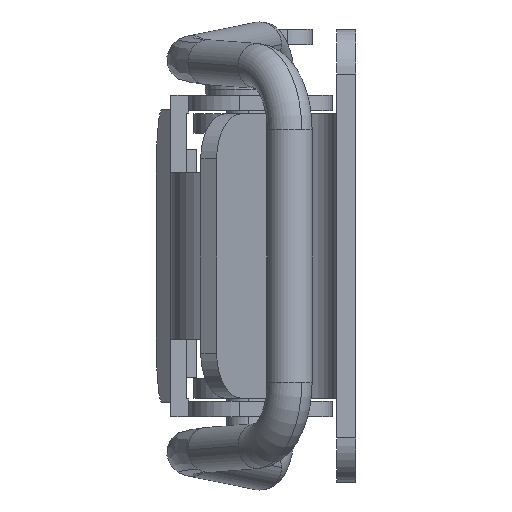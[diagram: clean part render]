
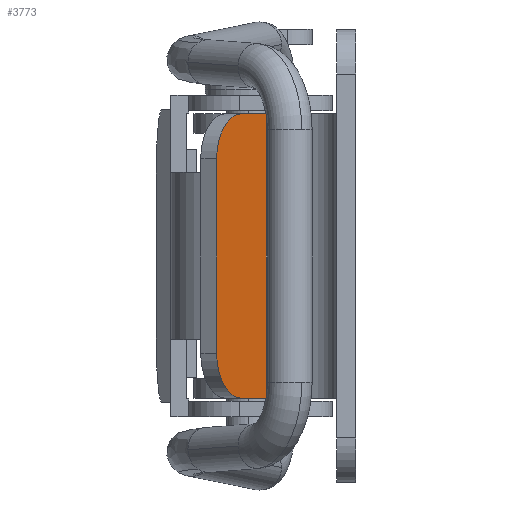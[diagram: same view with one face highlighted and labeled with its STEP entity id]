
A CAD part, left-side view. The second image highlights one B-rep face of the part: STEP entity #3773.
In plain terms, the highlighted planar face has unit normal (-0.56, -0.828, 0).
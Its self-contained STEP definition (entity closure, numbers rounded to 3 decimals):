
#38 = VECTOR ( 'NONE', #1495, 1000. ) ;
#315 = DIRECTION ( 'NONE',  ( -0.828, 0.561, 0. ) ) ;
#413 = EDGE_CURVE ( 'NONE', #5441, #3978, #5530, .T. ) ;
#435 = VERTEX_POINT ( 'NONE', #4852 ) ;
#483 = ORIENTED_EDGE ( 'NONE', *, *, #5491, .T. ) ;
#546 = CARTESIAN_POINT ( 'NONE',  ( -32.559, 28.061, 73.366 ) ) ;
#608 = DIRECTION ( 'NONE',  ( -0.561, -0.828, 0. ) ) ;
#728 = PLANE ( 'NONE',  #5871 ) ;
#749 = DIRECTION ( 'NONE',  ( 0.828, -0.561, 0. ) ) ;
#802 = DIRECTION ( 'NONE',  ( 0.828, -0.561, 0. ) ) ;
#925 = CARTESIAN_POINT ( 'NONE',  ( -15.036, 16.2, 66.766 ) ) ;
#926 = CARTESIAN_POINT ( 'NONE',  ( -26.837, 24.188, 73.366 ) ) ;
#1169 = VERTEX_POINT ( 'NONE', #5928 ) ;
#1360 = VERTEX_POINT ( 'NONE', #5374 ) ;
#1370 = VECTOR ( 'NONE', #6626, 1000. ) ;
#1386 = LINE ( 'NONE', #926, #38 ) ;
#1495 = DIRECTION ( 'NONE',  ( 0., 0., -1. ) ) ;
#1762 = DIRECTION ( 'NONE',  ( 0., 0., -1. ) ) ;
#1984 = ORIENTED_EDGE ( 'NONE', *, *, #413, .F. ) ;
#2117 = CIRCLE ( 'NONE', #2835, 3.5 ) ;
#2617 = CARTESIAN_POINT ( 'NONE',  ( -29.661, 26.099, 48.066 ) ) ;
#2745 = ORIENTED_EDGE ( 'NONE', *, *, #4463, .T. ) ;
#2835 = AXIS2_PLACEMENT_3D ( 'NONE', #5317, #5395, #749 ) ;
#3376 = CARTESIAN_POINT ( 'NONE',  ( -29.661, 26.099, 44.566 ) ) ;
#3773 = ADVANCED_FACE ( 'NONE', ( #4802 ), #728, .T. ) ;
#3827 = EDGE_CURVE ( 'NONE', #1360, #3978, #7068, .T. ) ;
#3978 = VERTEX_POINT ( 'NONE', #3376 ) ;
#4034 = VECTOR ( 'NONE', #1762, 1000. ) ;
#4069 = CARTESIAN_POINT ( 'NONE',  ( -26.837, 24.188, 66.766 ) ) ;
#4206 = CARTESIAN_POINT ( 'NONE',  ( -26.837, 24.188, 44.566 ) ) ;
#4346 = CARTESIAN_POINT ( 'NONE',  ( -15.036, 16.2, 44.566 ) ) ;
#4350 = ORIENTED_EDGE ( 'NONE', *, *, #4611, .T. ) ;
#4391 = AXIS2_PLACEMENT_3D ( 'NONE', #2617, #5477, #802 ) ;
#4417 = LINE ( 'NONE', #925, #1370 ) ;
#4463 = EDGE_CURVE ( 'NONE', #435, #1360, #6860, .T. ) ;
#4611 = EDGE_CURVE ( 'NONE', #7392, #1169, #4417, .T. ) ;
#4638 = ORIENTED_EDGE ( 'NONE', *, *, #3827, .T. ) ;
#4684 = CARTESIAN_POINT ( 'NONE',  ( -26.837, 24.188, 73.366 ) ) ;
#4802 = FACE_OUTER_BOUND ( 'NONE', #5235, .T. ) ;
#4852 = CARTESIAN_POINT ( 'NONE',  ( -32.559, 28.061, 63.266 ) ) ;
#5235 = EDGE_LOOP ( 'NONE', ( #2745, #4638, #1984, #6575, #4350, #483 ) ) ;
#5253 = DIRECTION ( 'NONE',  ( -0.828, 0.561, 0. ) ) ;
#5317 = CARTESIAN_POINT ( 'NONE',  ( -29.661, 26.099, 63.266 ) ) ;
#5374 = CARTESIAN_POINT ( 'NONE',  ( -32.559, 28.061, 48.066 ) ) ;
#5395 = DIRECTION ( 'NONE',  ( -0.561, -0.828, 0. ) ) ;
#5441 = VERTEX_POINT ( 'NONE', #4206 ) ;
#5477 = DIRECTION ( 'NONE',  ( -0.561, -0.828, 0. ) ) ;
#5491 = EDGE_CURVE ( 'NONE', #1169, #435, #2117, .T. ) ;
#5530 = LINE ( 'NONE', #4346, #7516 ) ;
#5871 = AXIS2_PLACEMENT_3D ( 'NONE', #4684, #608, #5253 ) ;
#5928 = CARTESIAN_POINT ( 'NONE',  ( -29.661, 26.099, 66.766 ) ) ;
#6575 = ORIENTED_EDGE ( 'NONE', *, *, #6680, .F. ) ;
#6626 = DIRECTION ( 'NONE',  ( -0.828, 0.561, 0. ) ) ;
#6680 = EDGE_CURVE ( 'NONE', #7392, #5441, #1386, .T. ) ;
#6860 = LINE ( 'NONE', #546, #4034 ) ;
#7068 = CIRCLE ( 'NONE', #4391, 3.5 ) ;
#7392 = VERTEX_POINT ( 'NONE', #4069 ) ;
#7516 = VECTOR ( 'NONE', #315, 1000. ) ;
